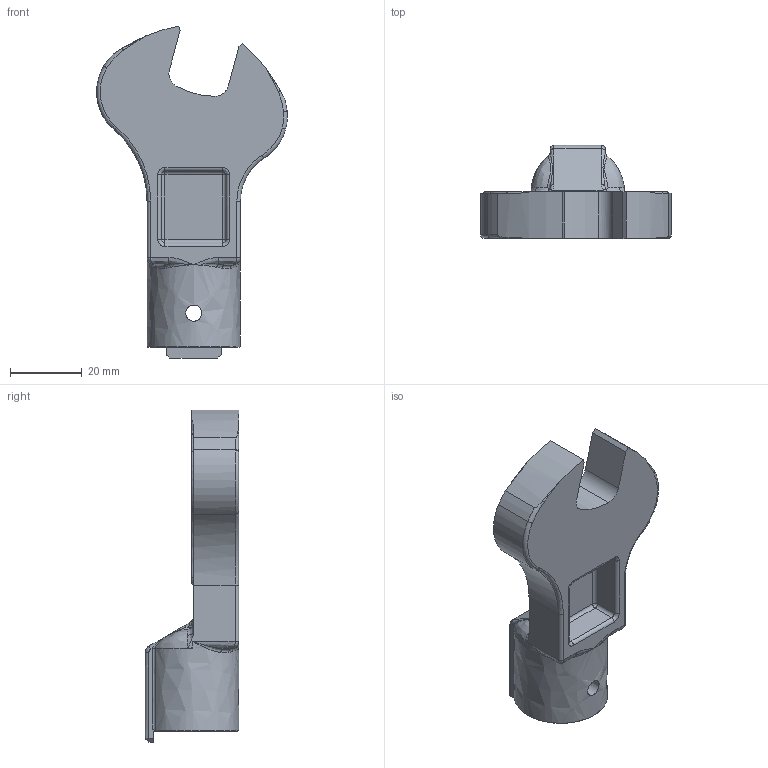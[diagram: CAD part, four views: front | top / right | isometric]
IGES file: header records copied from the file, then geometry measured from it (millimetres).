
Global section: file name: SH19DX17; native system: Autodesk Inventor 2016; preprocessor: unknown; author: Q600; date: 20151029.180721; units: millimetre
Bounding box: 53.06 x 26 x 92.41 mm (x, y, z)
Volume: 30609.7 mm3; surface area: 11352.8 mm2
Topology: 1 solids, 1 shells, 137 faces, 361 edges, 217 vertices
Faces by surface type: bspline 137
